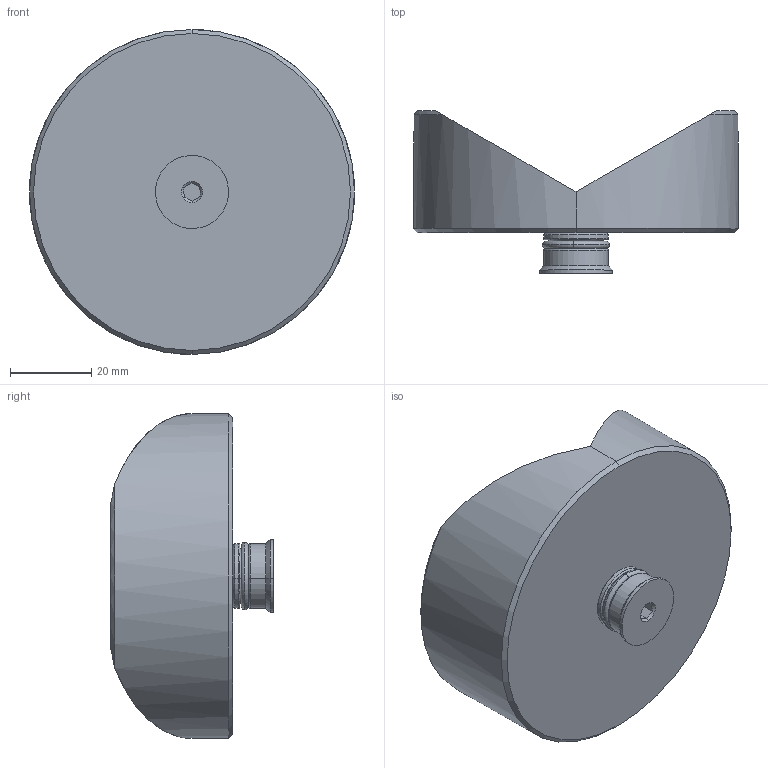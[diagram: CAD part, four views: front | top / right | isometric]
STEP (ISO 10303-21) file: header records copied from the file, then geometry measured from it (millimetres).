
FILE_DESCRIPTION (( 'STEP AP203' ), '1' );
FILE_NAME ('160652.1.step', '2014-08-11T16:18:28', ( 'User' ), ( '' ), 'SwSTEP 2.0', 'SolidWorks 2014', '' );
FILE_SCHEMA (( 'CONFIG_CONTROL_DESIGN' ));
Length unit declared in the file: millimetre
Products named in the file (5): 160652.1 Prisma 120_Foto_Detailliert; 160649.0 Spezialschr Prisma Foto^160649.0_16001898 Spezialschr Prisma Foto.SLDPRT_Detailliert; 160652.1; O-Ring^160649.0_16001898 Spezialschr Prisma Foto.SLDPRT; 160649.0_16001898 Spezialschr Prisma Foto.SLDPRT_Detailliert
Assembly tree (4 placements, depth 3):
  160652.1
    160652.1 Prisma 120_Foto_Detailliert
    160649.0_16001898 Spezialschr Prisma Foto.SLDPRT_Detailliert
      160649.0 Spezialschr Prisma Foto^160649.0_16001898 Spezialschr Prisma Foto.SLDPRT_Detailliert
      O-Ring^160649.0_16001898 Spezialschr Prisma Foto.SLDPRT
Bounding box: 80 x 40 x 80 mm (x, y, z)
Volume: 100846.6 mm3; surface area: 18484.3 mm2
Topology: 3 solids, 3 shells, 57 faces, 120 edges, 70 vertices
Faces by surface type: plane 17, cone 14, cylinder 14, torus 12
Entity records: 2101 total; most frequent: CARTESIAN_POINT 347, DIRECTION 296, ORIENTED_EDGE 240, AXIS2_PLACEMENT_3D 127, EDGE_CURVE 120, VERTEX_POINT 70, EDGE_LOOP 62, CIRCLE 62
